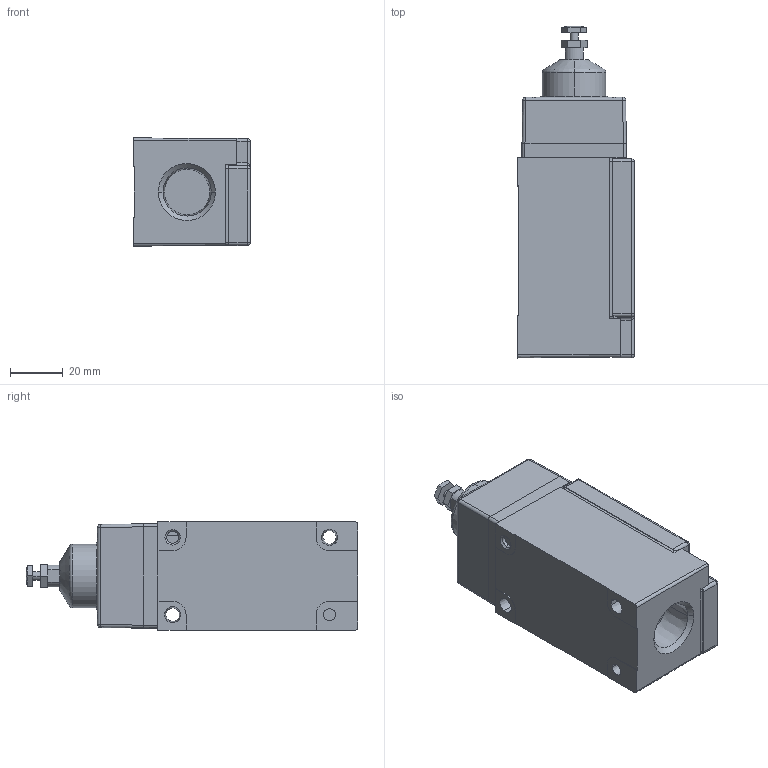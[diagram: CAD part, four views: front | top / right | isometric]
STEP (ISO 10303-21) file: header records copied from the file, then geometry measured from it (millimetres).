
FILE_DESCRIPTION((''),'2;1');
FILE_NAME('LSV3K_A','2012-12-06T',('E522935'),(''),'PRO/ENGINEER BY PARAMETRIC TECHNOLOGY CORPORATION, 2009460','PRO/ENGINEER BY PARAMETRIC TECHNOLOGY CORPORATION, 2009460','');
FILE_SCHEMA(('CONFIG_CONTROL_DESIGN'));
Length unit declared in the file: millimetre
Products named in the file (1): LSV3K_A
Bounding box: 44.32 x 126 x 41.15 mm (x, y, z)
Volume: 168509 mm3; surface area: 24946.9 mm2
Topology: 1 solids, 1 shells, 428 faces, 1035 edges, 625 vertices
Faces by surface type: plane 248, cylinder 120, cone 30, sphere 24, torus 4, bspline 2
Entity records: 13653 total; most frequent: CARTESIAN_POINT 3512, DIRECTION 2185, ORIENTED_EDGE 2066, EDGE_CURVE 1033, AXIS2_PLACEMENT_3D 786, VERTEX_POINT 625, VECTOR 613, LINE 613
